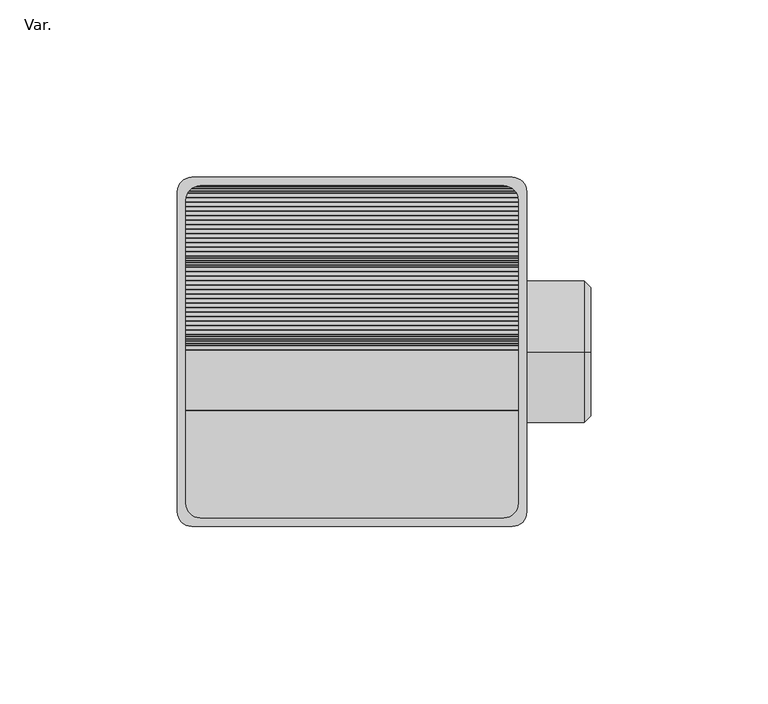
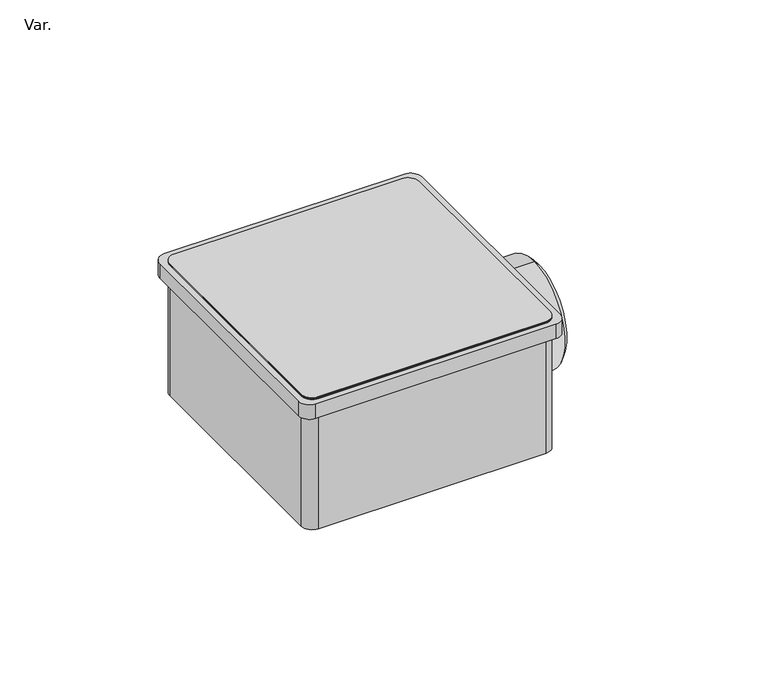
"""IFC4 building model written with IfcOpenShell, lengths in millimetres: pipe fitting geometry, AmancoWavin_ConexõesdeTubos_EsgotoRaloSecoQuadrado : Var.."""

from ifc_helpers import new_model, si_unit, point, frame, frame_2d, origin, place, context, project, spatial, polyline, circle_curve, trimmed, segment, composite_curve, outline, extrude, source, transform, mapped, element, save
from ifc_brep_helpers import plane_surface, cylinder_surface, revolved_surface, advanced_brep


def var_47bd62c8(model_context):
    return source(origin(), model_context, "Body", "SolidModel", [
        advanced_brep(
        [(67.2, 0.0, -18.2), (67.2, 0.0, 18.2), (46.8, 0.0, 18.2), (46.8, 0.0, -18.2), (65.4, 0.0, 20.0), (65.4, 0.0, -20.0), (46.8, 0.0, -20.0), (46.8, 0.0, 20.0), (-46.8, -42.8, 32.0), (-42.8, -46.8, 32.0), (42.8, -46.8, 32.0), (46.8, -42.8, 32.0), (46.8, 42.8, 32.0), (42.8, 46.8, 32.0), (-42.8, 46.8, 32.0), (-46.8, 42.8, 32.0), (-46.8, -42.8, -20.0), (-46.8, 42.8, -20.0), (-42.8, 46.8, -20.0), (42.8, 46.8, -20.0), (46.8, 42.8, -20.0), (46.8, -42.8, -20.0), (42.8, -46.8, -20.0), (-42.8, -46.8, -20.0)],
        [
            (0, 1, circle_curve(frame((67.2, 0.0, 0.0), z_axis=(1.0, 0.0, 0.0), x_axis=(0.0, 0.0, -1.0)), 18.2)),
            (1, 2),
            (2, 3, circle_curve(frame((46.8, 0.0, 0.0), z_axis=(-1.0, 0.0, 0.0), x_axis=(0.0, 0.0, -1.0)), 18.2)),
            (3, 0),
            (1, 0, circle_curve(frame((67.2, 0.0, 0.0), z_axis=(1.0, 0.0, 0.0), x_axis=(0.0, 0.0, -1.0)), 18.2)),
            (3, 2, circle_curve(frame((46.8, 0.0, 0.0), z_axis=(-1.0, 0.0, 0.0), x_axis=(0.0, 0.0, -1.0)), 18.2)),
            (4, 5, circle_curve(frame((65.4, 0.0, 0.0), z_axis=(-1.0, 0.0, 0.0), x_axis=(0.0, 0.0, -1.0)), 20.0)),
            (5, 6),
            (6, 7, circle_curve(frame((46.8, 0.0, 0.0), z_axis=(1.0, 0.0, 0.0), x_axis=(0.0, 0.0, -1.0)), 20.0)),
            (7, 4),
            (5, 4, circle_curve(frame((65.4, 0.0, 0.0), z_axis=(-1.0, 0.0, 0.0), x_axis=(0.0, 0.0, -1.0)), 20.0)),
            (7, 6, circle_curve(frame((46.8, 0.0, 0.0), z_axis=(1.0, 0.0, 0.0), x_axis=(0.0, 0.0, -1.0)), 20.0)),
            (0, 5),
            (4, 1),
            (8, 9, circle_curve(frame((-42.8, -42.8, 32.0), z_axis=(0.0, 0.0, 1.0), x_axis=(1.0, 0.0, 0.0)), 4.0)),
            (9, 10),
            (10, 11, circle_curve(frame((42.8, -42.8, 32.0), z_axis=(0.0, 0.0, 1.0), x_axis=(1.0, 0.0, 0.0)), 4.0)),
            (11, 12),
            (12, 13, circle_curve(frame((42.8, 42.8, 32.0), z_axis=(0.0, 0.0, 1.0), x_axis=(1.0, 0.0, 0.0)), 4.0)),
            (13, 14),
            (14, 15, circle_curve(frame((-42.8, 42.8, 32.0), z_axis=(0.0, 0.0, 1.0), x_axis=(1.0, 0.0, 0.0)), 4.0)),
            (15, 8),
            (16, 17),
            (17, 18, circle_curve(frame((-42.8, 42.8, -20.0), z_axis=(0.0, 0.0, -1.0), x_axis=(1.0, 0.0, 0.0)), 4.0)),
            (18, 19),
            (19, 20, circle_curve(frame((42.8, 42.8, -20.0), z_axis=(0.0, 0.0, -1.0), x_axis=(1.0, 0.0, 0.0)), 4.0)),
            (20, 6),
            (6, 21),
            (21, 22, circle_curve(frame((42.8, -42.8, -20.0), z_axis=(0.0, 0.0, -1.0), x_axis=(1.0, 0.0, 0.0)), 4.0)),
            (22, 23),
            (23, 16, circle_curve(frame((-42.8, -42.8, -20.0), z_axis=(0.0, 0.0, -1.0), x_axis=(1.0, 0.0, 0.0)), 4.0)),
            (8, 16),
            (23, 9),
            (22, 10),
            (21, 11),
            (20, 12),
            (19, 13),
            (18, 14),
            (17, 15),
        ],
        [
            revolved_surface(polyline([(67.2, 0.0, -18.2), (46.8, 0.0, -18.2)]), (0.0, 0.0, 0.0), (1.0, 0.0, 0.0)),
            cylinder_surface(frame((0.0, 0.0, 0.0), z_axis=(1.0, 0.0, 0.0), x_axis=(0.0, 0.0, -1.0)), 20.0),
            revolved_surface(polyline([(65.4, 0.0, -20.0), (67.2, 0.0, -18.2)]), (0.0, 0.0, 0.0), (1.0, 0.0, 0.0)),
            plane_surface(frame((-38.8, -42.8, 32.0), z_axis=(0.0, 0.0, 1.0), x_axis=(0.0, 1.0, 0.0))),
            plane_surface(frame((-38.8, -42.8, -20.0), z_axis=(0.0, 0.0, -1.0), x_axis=(0.0, -1.0, 0.0))),
            cylinder_surface(frame((-42.8, -42.8, -20.0), z_axis=(0.0, 0.0, 1.0), x_axis=(1.0, 0.0, 0.0)), 4.0),
            plane_surface(frame((-42.8, -46.8, 32.0), z_axis=(0.0, -1.0, 0.0), x_axis=(0.0, 0.0, -1.0))),
            cylinder_surface(frame((42.8, -42.8, -20.0), z_axis=(0.0, 0.0, 1.0), x_axis=(1.0, 0.0, 0.0)), 4.0),
            plane_surface(frame((46.8, -42.8, 32.0), z_axis=(1.0, 0.0, 0.0), x_axis=(0.0, 0.0, -1.0))),
            cylinder_surface(frame((42.8, 42.8, -20.0), z_axis=(0.0, 0.0, 1.0), x_axis=(1.0, 0.0, 0.0)), 4.0),
            plane_surface(frame((42.8, 46.8, 32.0), z_axis=(0.0, 1.0, 0.0), x_axis=(0.0, 0.0, -1.0))),
            cylinder_surface(frame((-42.8, 42.8, -20.0), z_axis=(0.0, 0.0, 1.0), x_axis=(1.0, 0.0, 0.0)), 4.0),
            plane_surface(frame((-46.8, 42.8, 32.0), z_axis=(-1.0, 0.0, 0.0), x_axis=(0.0, 0.0, -1.0))),
        ],
        [
            (0, [[1, 2, 3, 4]]),
            (0, [[5, -4, 6, -2]]),
            (1, [[7, 8, 9, 10]]),
            (1, [[11, -10, 12, -8]]),
            (2, [[-1, 13, -7, 14]]),
            (2, [[-5, -14, -11, -13]]),
            (3, [[15, 16, 17, 18, 19, 20, 21, 22]]),
            (4, [[23, 24, 25, 26, 27, 28, 29, 30, 31]]),
            (5, [[-15, 32, -31, 33]]),
            (6, [[-16, -33, -30, 34]]),
            (7, [[-17, -34, -29, 35]]),
            (8, [[-18, -35, -28, -12, -9, -27, 36]]),
            (8, [[-3, -6]]),
            (9, [[-19, -36, -26, 37]]),
            (10, [[-20, -37, -25, 38]]),
            (11, [[-21, -38, -24, 39]]),
            (12, [[-22, -39, -23, -32]]),
        ],
    ),
        extrude(outline(composite_curve([segment(trimmed(circle_curve(frame_2d((42.8, 42.8)), 4.0), [point((42.8, 46.8))], [point((46.8, 42.8))], False, "CARTESIAN"), True, "CONTINUOUS"), segment(polyline([(46.8, 42.8), (46.8, -42.8)]), True, "CONTINUOUS"), segment(trimmed(circle_curve(frame_2d((42.8, -42.8)), 4.0), [point((46.8, -42.8))], [point((42.8, -46.8))], False, "CARTESIAN"), True, "CONTINUOUS"), segment(polyline([(42.8, -46.8), (-42.8, -46.8)]), True, "CONTINUOUS"), segment(trimmed(circle_curve(frame_2d((-42.8, -42.8)), 4.0), [point((-42.8, -46.8))], [point((-46.8, -42.8))], False, "CARTESIAN"), True, "CONTINUOUS"), segment(polyline([(-46.8, -42.8), (-46.8, 42.8)]), True, "CONTINUOUS"), segment(trimmed(circle_curve(frame_2d((-42.8, 42.8)), 4.0), [point((-46.8, 42.8))], [point((-42.8, 46.8))], False, "CARTESIAN"), True, "CONTINUOUS"), segment(polyline([(-42.8, 46.8), (42.8, 46.8)]), True, "CONTINUOUS")], self_intersect=False)), frame((0.0, 0.0, 32.0), z_axis=(0.0, 0.0, 1.0), x_axis=(1.0, 0.0, 0.0)), (0.0, 0.0, 1.0), 0.5),
        extrude(outline(composite_curve([segment(polyline([(-49.2, -45.2), (-49.2, 45.2)]), True, "CONTINUOUS"), segment(trimmed(circle_curve(frame_2d((-45.2, 45.2)), 4.0), [point((-49.2, 45.2))], [point((-45.2, 49.2))], False, "CARTESIAN"), True, "CONTINUOUS"), segment(polyline([(-45.2, 49.2), (45.2, 49.2)]), True, "CONTINUOUS"), segment(trimmed(circle_curve(frame_2d((45.2, 45.2)), 4.0), [point((45.2, 49.2))], [point((49.2, 45.2))], False, "CARTESIAN"), True, "CONTINUOUS"), segment(polyline([(49.2, 45.2), (49.2, -45.2)]), True, "CONTINUOUS"), segment(trimmed(circle_curve(frame_2d((45.2, -45.2)), 4.0), [point((49.2, -45.2))], [point((45.2, -49.2))], False, "CARTESIAN"), True, "CONTINUOUS"), segment(polyline([(45.2, -49.2), (-45.2, -49.2)]), True, "CONTINUOUS"), segment(trimmed(circle_curve(frame_2d((-45.2, -45.2)), 4.0), [point((-45.2, -49.2))], [point((-49.2, -45.2))], False, "CARTESIAN"), True, "CONTINUOUS")], self_intersect=False)), frame((0.0, 0.0, 26.2), z_axis=(0.0, 0.0, 1.0), x_axis=(1.0, 0.0, 0.0)), (0.0, 0.0, 1.0), 5.8),
    ])


if __name__ == "__main__":
    model = new_model("IFC4")
    model_context = context("Model", 3, world=origin())
    ifc_project = project(units=[si_unit("LENGTHUNIT", "METRE", prefix="MILLI")], contexts=[model_context])
    site = spatial("IfcSite", under=ifc_project)
    building = spatial("IfcBuilding", under=site)
    placement = place(None, origin())
    var_shape = var_47bd62c8(model_context)
    element("IfcPipeFitting", 1, ObjectType="AmancoWavin_ConexõesdeTubos_EsgotoRaloSecoQuadrado : Var.", at=placement, inside=building, context=model_context, shape_type="MappedRepresentation", body=[
        mapped(var_shape, transform((0.0, 0.0, 0.0), x_axis=(1.0, 0.0, 0.0), y_axis=(0.0, 1.0, 0.0), z_axis=(0.0, 0.0, 1.0))),
    ])
    save(model, "model.ifc")
